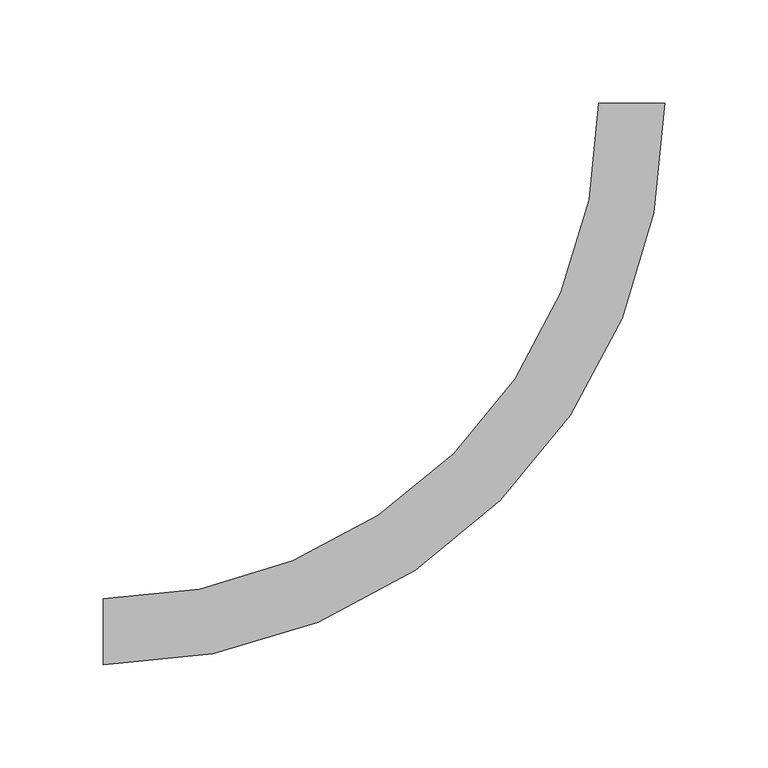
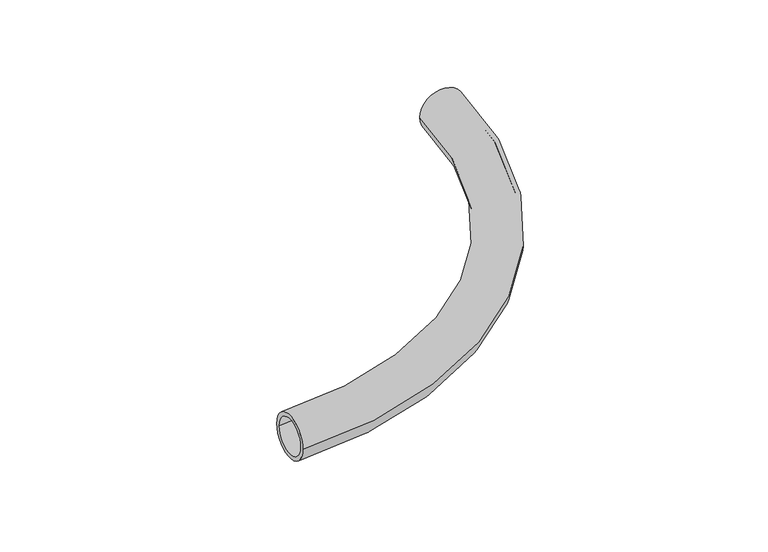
"""IFC4 building model written with IfcOpenShell, lengths in millimetres: pipe fitting geometry, FASTLOC_ML_bend : FSL ML AT."""

import ifcopenshell
import ifcopenshell.guid

model = None  # the IFC model being written
_history = None  # IfcOwnerHistory: only IFC2X3 demands one
_inside = {}  # id of a spatial element -> (the spatial element, [elements in it])
_under = {}  # id of a project, library or spatial element -> (it, [spatial elements below it])
_declared = {}  # id of a project -> (the project, [libraries it declares])
_typed = {}  # id of a type object -> (the type object, [elements of that type])
_made_of = {}  # id of a material, layer set ... -> (it, [elements and type objects made of it])


def new_model(schema):
    """Start an empty IFC model of exactly this schema.

    Asked for "IFC4X3", IfcOpenShell would pick the latest addendum, in which some entities
    have other attributes; the version numbers below select the first issue.
    IFC2X3 requires an IfcOwnerHistory on every rooted entity: one is made here for all.
    """
    global model, _history
    if schema == "IFC4X3":
        model = ifcopenshell.file(schema_version=(4, 3, 0, 0))
    else:
        model = ifcopenshell.file(schema=schema)
    _inside.clear()
    _under.clear()
    _declared.clear()
    _typed.clear()
    _made_of.clear()
    _history = None
    if model.schema == "IFC2X3":
        org = make("IfcOrganization", Name="unknown")
        user = make(
            "IfcPersonAndOrganization",
            ThePerson=make("IfcPerson", FamilyName="unknown"),
            TheOrganization=org,
        )
        app = make(
            "IfcApplication",
            ApplicationDeveloper=org,
            Version="unknown",
            ApplicationFullName="unknown",
            ApplicationIdentifier="unknown",
        )
        _history = make(
            "IfcOwnerHistory",
            OwningUser=user,
            OwningApplication=app,
            ChangeAction="ADDED",
            CreationDate=0,
        )
    return model


def make(cls, **values):
    """One entity of the class cls with the attributes given. An attribute that is None is left unset."""
    return model.create_entity(
        cls, **{name: value for name, value in values.items() if value is not None}
    )


def rooted(cls, **values):
    """An entity with a GlobalId (a new one), such as an element, a storey or a relation."""
    return make(cls, GlobalId=ifcopenshell.guid.new(), OwnerHistory=_history, **values)


def si_unit(unit_type, name, prefix=None):
    """IfcSIUnit, for example si_unit("LENGTHUNIT", "METRE", prefix="MILLI")."""
    return make("IfcSIUnit", UnitType=unit_type, Prefix=prefix, Name=name)


def assignment(units):
    """IfcUnitAssignment: the units of a project."""
    return None if units is None else make("IfcUnitAssignment", Units=units)


def point(xyz):
    """IfcCartesianPoint."""
    return None if xyz is None else make("IfcCartesianPoint", Coordinates=xyz)


def direction(xyz):
    """IfcDirection."""
    return None if xyz is None else make("IfcDirection", DirectionRatios=xyz)


def frame(location, z_axis=None, x_axis=None):
    """IfcAxis2Placement3D, a coordinate frame: its origin and axes. An axis left out is left unset."""
    return make(
        "IfcAxis2Placement3D",
        Location=point(location),
        Axis=direction(z_axis),
        RefDirection=direction(x_axis),
    )


def origin():
    """The frame at (0, 0, 0) with its axes left unset."""
    return frame((0.0, 0.0, 0.0))


def place(relative_to, where):
    """IfcLocalPlacement: puts the frame where relative to a parent placement (None: the world)."""
    return make(
        "IfcLocalPlacement", PlacementRelTo=relative_to, RelativePlacement=where
    )


def context(
    kind, dimensions, precision=None, world=None, true_north=None, identifier=None
):
    """IfcGeometricRepresentationContext, for example the 3D "Model" context."""
    return make(
        "IfcGeometricRepresentationContext",
        ContextIdentifier=identifier,
        ContextType=kind,
        CoordinateSpaceDimension=dimensions,
        Precision=precision,
        WorldCoordinateSystem=world,
        TrueNorth=true_north,
    )


def project(units=None, contexts=None):
    """IfcProject with its units and contexts."""
    return rooted(
        "IfcProject",
        Name="project",
        RepresentationContexts=contexts,
        UnitsInContext=assignment(units),
    )


def spatial(cls, under=None, at=None, **own):
    """A site, building, storey or space (cls), placed at a placement, below another one or the project."""
    s = rooted(cls, ObjectPlacement=at, **own)
    if under is not None:
        _under.setdefault(under.id(), (under, []))[1].append(s)
    return s


def circle_curve(where, radius):
    """IfcCircle in the frame where."""
    return make("IfcCircle", Position=where, Radius=radius)


def ellipse_curve(where, semi_axis1, semi_axis2):
    """IfcEllipse in the frame where."""
    return make(
        "IfcEllipse", Position=where, SemiAxis1=semi_axis1, SemiAxis2=semi_axis2
    )


def trimmed(basis, trim1, trim2, sense, master):
    """IfcTrimmedCurve: the piece of a basis curve between two trims."""
    return make(
        "IfcTrimmedCurve",
        BasisCurve=basis,
        Trim1=trim1,
        Trim2=trim2,
        SenseAgreement=sense,
        MasterRepresentation=master,
    )


def shape(context_of_items, identifier, shape_type, items):
    """IfcShapeRepresentation: the items that make up one representation, for example the "Body"."""
    return make(
        "IfcShapeRepresentation",
        ContextOfItems=context_of_items,
        RepresentationIdentifier=identifier,
        RepresentationType=shape_type,
        Items=items,
    )


def source(mapping_origin, context_of_items, identifier, shape_type, items):
    """IfcRepresentationMap: a shape defined once, which mapped items show again and again."""
    return make(
        "IfcRepresentationMap",
        MappingOrigin=mapping_origin,
        MappedRepresentation=shape(context_of_items, identifier, shape_type, items),
    )


def transform(
    local_origin,
    x_axis=None,
    y_axis=None,
    z_axis=None,
    scale=None,
    scale2=None,
    scale3=None,
    uniform=True,
):
    """IfcCartesianTransformationOperator3D, or its non-uniform kind. x_axis, y_axis, z_axis: its Axis1, 2, 3."""
    if uniform:
        return make(
            "IfcCartesianTransformationOperator3D",
            Axis1=direction(x_axis),
            Axis2=direction(y_axis),
            LocalOrigin=point(local_origin),
            Scale=scale,
            Axis3=direction(z_axis),
        )
    return make(
        "IfcCartesianTransformationOperator3DnonUniform",
        Axis1=direction(x_axis),
        Axis2=direction(y_axis),
        LocalOrigin=point(local_origin),
        Scale=scale,
        Axis3=direction(z_axis),
        Scale2=scale2,
        Scale3=scale3,
    )


def mapped(mapping_source, mapping_target):
    """IfcMappedItem: shows the shape of a source again, moved by a transform."""
    return make(
        "IfcMappedItem", MappingSource=mapping_source, MappingTarget=mapping_target
    )


def made_of(thing, what):
    """Note that an element or type object is made of a material, layer set ...; save() writes the relation."""
    if what is not None:
        _made_of.setdefault(what.id(), (what, []))[1].append(thing)
    return thing


def element(
    cls,
    number,
    at=None,
    inside=None,
    cuts=None,
    type_object=None,
    material=None,
    context=None,
    identifier="Body",
    shape_type=None,
    held_by="IfcProductDefinitionShape",
    body=None,
    shapes=None,
    **own,
):
    """One element of the class cls, such as IfcWall. Its Tag is "e" and its number.

    at: its placement. inside: the storey or other place that contains it. cuts: it is an
    opening in that element (IfcRelVoidsElement). A single representation is given by context,
    identifier, shape_type and body (its items); several are given by shapes. held_by: the class
    of the entity that holds the representations. save() writes the other relations.
    """
    e = rooted(cls, Tag="e%d" % number, ObjectPlacement=at, **own)
    if body is not None:
        shapes = [shape(context, identifier, shape_type, body)]
    if shapes is not None:
        e.Representation = make(held_by, Representations=shapes)
    if inside is not None:
        _inside.setdefault(inside.id(), (inside, []))[1].append(e)
    if cuts is not None:
        rooted(
            "IfcRelVoidsElement", RelatingBuildingElement=cuts, RelatedOpeningElement=e
        )
    if type_object is not None:
        _typed.setdefault(type_object.id(), (type_object, []))[1].append(e)
    return made_of(e, material)


def aggregate(whole, parts):
    """IfcRelAggregates: a whole, such as a stair, and the parts it consists of."""
    return rooted("IfcRelAggregates", RelatingObject=whole, RelatedObjects=parts)


def save(model, path):
    """Write the relations noted so far, then the file.

    IfcRelAggregates (storeys below a building ...), IfcRelContainedInSpatialStructure (elements
    in a storey), IfcRelDefinesByType, IfcRelAssociatesMaterial and IfcRelDeclares: one each for
    every whole, place, type object, material and project.
    """
    for whole, parts in _under.values():
        aggregate(whole, parts)
    for where, things in _inside.values():
        rooted(
            "IfcRelContainedInSpatialStructure",
            RelatedElements=things,
            RelatingStructure=where,
        )
    for kind, things in _typed.values():
        rooted("IfcRelDefinesByType", RelatedObjects=things, RelatingType=kind)
    for what, things in _made_of.values():
        rooted("IfcRelAssociatesMaterial", RelatedObjects=things, RelatingMaterial=what)
    for by, libraries in _declared.values():
        rooted("IfcRelDeclares", RelatingContext=by, RelatedDefinitions=libraries)
    model.write(path)


def plane_surface(at):
    """IfcPlane: the flat surface through the origin of the frame at, square to its z axis."""
    return make("IfcPlane", Position=at)


def revolved_surface(curve, axis_point, axis_direction):
    """IfcSurfaceOfRevolution: the curve turned about the line through axis_point along axis_direction."""
    return make(
        "IfcSurfaceOfRevolution",
        SweptCurve=make("IfcArbitraryOpenProfileDef", ProfileType="CURVE", Curve=curve),
        AxisPosition=make("IfcAxis1Placement", Location=point(axis_point), Axis=direction(axis_direction)),
    )


def advanced_brep(points, edges, surfaces, faces):
    """IfcAdvancedBrep: a solid bounded by faces that lie on surfaces and meet in shared edges.

    An edge is (start, end): straight between two places in points (the first is 0);
    or (start, end, curve); or (start, end, curve, False) where it runs against its curve.
    A face is (place in surfaces, loops), or (place, loops, False) where it looks against
    its surface's normal. A loop lists edges by number (the first is 1), with a minus sign
    where the edge is run from its end to its start. The first loop is the outer one.
    """
    corners = [point(p) for p in points]
    vertices = [make("IfcVertexPoint", VertexGeometry=c) for c in corners]
    made = []
    for start, end, *more in edges:
        made.append(
            make(
                "IfcEdgeCurve",
                EdgeStart=vertices[start],
                EdgeEnd=vertices[end],
                EdgeGeometry=more[0] if more else make("IfcPolyline", Points=[corners[start], corners[end]]),
                SameSense=more[1] if len(more) > 1 else True,
            )
        )
    hull = []
    for where, loops, *sense in faces:
        bounds = []
        for j, loop in enumerate(loops):
            ring = [make("IfcOrientedEdge", EdgeElement=made[abs(k) - 1], Orientation=k > 0) for k in loop]
            bounds.append(
                make(
                    "IfcFaceOuterBound" if j == 0 else "IfcFaceBound",
                    Bound=make("IfcEdgeLoop", EdgeList=ring),
                    Orientation=True,
                )
            )
        hull.append(make("IfcAdvancedFace", Bounds=bounds, FaceSurface=surfaces[where], SameSense=sense[0] if sense else True))
    return make("IfcAdvancedBrep", Outer=make("IfcClosedShell", CfsFaces=hull))


def pipe_fitting_373418fb(model_context):
    return source(origin(), model_context, "Body", "AdvancedBrep", [
        advanced_brep(
        [(-256.0, -16.0, 0.0), (-256.0, 16.0, 0.0), (-256.0, -13.0, 0.0), (-256.0, 13.0, 0.0), (16.0, 256.0, 0.0), (-16.0, 256.0, 0.0), (13.0, 256.0, 0.0), (-13.0, 256.0, 0.0)],
        [
            (0, 1, circle_curve(frame((-256.0, 0.0, 0.0), z_axis=(-1.0, 0.0, 0.0), x_axis=(0.0, 1.0, 0.0)), 16.0)),
            (1, 0, circle_curve(frame((-256.0, 0.0, 0.0), z_axis=(-1.0, 0.0, 0.0), x_axis=(0.0, 1.0, 0.0)), 16.0)),
            (2, 3, circle_curve(frame((-256.0, 0.0, 0.0), z_axis=(1.0, 0.0, 0.0), x_axis=(0.0, 1.0, 0.0)), 13.0)),
            (3, 2, circle_curve(frame((-256.0, 0.0, 0.0), z_axis=(1.0, 0.0, 0.0), x_axis=(0.0, 1.0, 0.0)), 13.0)),
            (4, 5, circle_curve(frame((0.0, 256.0, 0.0), z_axis=(0.0, 1.0, 0.0), x_axis=(-1.0, 0.0, 0.0)), 16.0)),
            (5, 4, circle_curve(frame((0.0, 256.0, 0.0), z_axis=(0.0, 1.0, 0.0), x_axis=(-1.0, 0.0, 0.0)), 16.0)),
            (6, 7, circle_curve(frame((0.0, 256.0, 0.0), z_axis=(0.0, -1.0, 0.0), x_axis=(-1.0, 0.0, 0.0)), 13.0)),
            (7, 6, circle_curve(frame((0.0, 256.0, 0.0), z_axis=(0.0, -1.0, 0.0), x_axis=(-1.0, 0.0, 0.0)), 13.0)),
            (7, 3, circle_curve(frame((-256.0, 256.0, 0.0), z_axis=(0.0, 0.0, -1.0), x_axis=(0.0, -1.0, 0.0)), 243.0)),
            (2, 6, circle_curve(frame((-256.0, 256.0, 0.0), z_axis=(0.0, 0.0, 1.0), x_axis=(0.0, -1.0, 0.0)), 269.0)),
            (5, 1, circle_curve(frame((-256.0, 256.0, 0.0), z_axis=(0.0, 0.0, -1.0), x_axis=(0.0, -1.0, 0.0)), 240.0)),
            (0, 4, circle_curve(frame((-256.0, 256.0, 0.0), z_axis=(0.0, 0.0, 1.0), x_axis=(0.0, -1.0, 0.0)), 272.0)),
        ],
        [
            plane_surface(frame((-256.0, 0.0, 0.0), z_axis=(-1.0, 0.0, 0.0), x_axis=(0.0, 0.0, 1.0))),
            plane_surface(frame((0.0, 256.0, 0.0), z_axis=(0.0, 1.0, 0.0), x_axis=(0.0, 0.0, 1.0))),
            revolved_surface(trimmed(ellipse_curve(frame((-256.0, 0.0, 0.0), z_axis=(1.0, 0.0, 0.0), x_axis=(0.0, 1.0, 0.0)), 13.0, 13.0), [point((-256.0, -13.0, 0.0))], [point((-256.0, 13.0, 0.0))], True, "CARTESIAN"), (-256.0, 256.0, 0.0), (0.0, 0.0, 1.0)),
            revolved_surface(trimmed(ellipse_curve(frame((-256.0, 0.0, 0.0), z_axis=(1.0, 0.0, 0.0), x_axis=(0.0, 1.0, 0.0)), 13.0, 13.0), [point((-256.0, 13.0, 0.0))], [point((-256.0, -13.0, 0.0))], True, "CARTESIAN"), (-256.0, 256.0, 0.0), (0.0, 0.0, 1.0)),
            revolved_surface(trimmed(ellipse_curve(frame((-256.0, 0.0, 0.0), z_axis=(-1.0, 0.0, 0.0), x_axis=(0.0, 1.0, 0.0)), 16.0, 16.0), [point((-256.0, -16.0, 0.0))], [point((-256.0, 16.0, 0.0))], True, "CARTESIAN"), (-256.0, 256.0, 0.0), (0.0, 0.0, 1.0)),
            revolved_surface(trimmed(ellipse_curve(frame((-256.0, 0.0, 0.0), z_axis=(-1.0, 0.0, 0.0), x_axis=(0.0, 1.0, 0.0)), 16.0, 16.0), [point((-256.0, 16.0, 0.0))], [point((-256.0, -16.0, 0.0))], True, "CARTESIAN"), (-256.0, 256.0, 0.0), (0.0, 0.0, 1.0)),
        ],
        [
            (0, [[1, 2], [3, 4]]),
            (1, [[5, 6], [7, 8]]),
            (2, [[9, -3, 10, -8]]),
            (3, [[-10, -4, -9, -7]]),
            (4, [[11, -1, 12, -6]]),
            (5, [[-12, -2, -11, -5]]),
        ],
    ),
    ])


if __name__ == "__main__":
    model = new_model("IFC4")
    model_context = context("Model", 3, world=origin())
    ifc_project = project(units=[si_unit("LENGTHUNIT", "METRE", prefix="MILLI")], contexts=[model_context])
    site = spatial("IfcSite", under=ifc_project)
    building = spatial("IfcBuilding", under=site)
    placement = place(None, origin())
    pipe_fitting_shape = pipe_fitting_373418fb(model_context)
    element("IfcPipeFitting", 1, ObjectType="FASTLOC_ML_bend : FSL ML AT", at=placement, inside=building, context=model_context, shape_type="MappedRepresentation", body=[
        mapped(pipe_fitting_shape, transform((0.0, 0.0, 0.0), x_axis=(1.0, 0.0, 0.0), y_axis=(0.0, 1.0, 0.0), z_axis=(0.0, 0.0, 1.0))),
    ])
    save(model, "model.ifc")
